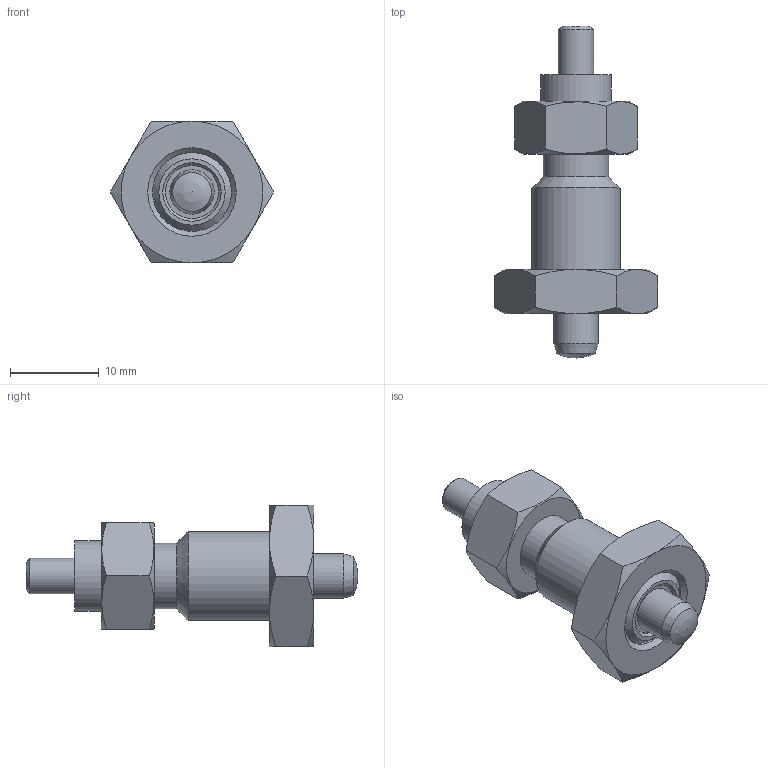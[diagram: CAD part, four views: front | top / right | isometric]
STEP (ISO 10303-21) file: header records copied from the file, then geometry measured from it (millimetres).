
FILE_DESCRIPTION( ( 'STEP AP203' ), '1' );
FILE_NAME( 'C:/Temp/Ganter_Step_05_03_2020/data/3_1/gn817/gn817_ni-rastbolzen/Stainless Steel-Indexing plunger GN 817-5-5-GK-NI (deactivated-0).stp', '2020-03-12T08:59:58', ( 'License CC BY-ND 4.0' ), ( 'CADENAS' ), ' ', 'PARTsolutions', ' ' );
FILE_SCHEMA( ( 'CONFIG_CONTROL_DESIGN' ) );
Length unit declared in the file: millimetre
Products named in the file (5): Stainless Steel-Indexing plunger GN 817-5-5-GK-NI (deactivated-0); _Stainless steel-Indexing plunger GN 817-5-5-GK-NI (deactivated-0)-d; _Stainless steel-Indexing plunger GN 817-5-5-B-NI-2; _Stainless Steel-Indexing plunger GN 817-5-5-G-NI-6; _Stainless steel-Indexing plunger GN 817-5-5-BK-NI (deactivated-0)-3
Assembly tree (4 placements, depth 2):
  Stainless Steel-Indexing plunger GN 817-5-5-GK-NI (deactivated-0)
    _Stainless steel-Indexing plunger GN 817-5-5-GK-NI (deactivated-0)-d
    _Stainless steel-Indexing plunger GN 817-5-5-B-NI-2
    _Stainless Steel-Indexing plunger GN 817-5-5-G-NI-6
    _Stainless steel-Indexing plunger GN 817-5-5-BK-NI (deactivated-0)-3
Bounding box: 18.48 x 37.5 x 16 mm (x, y, z)
Volume: 3022.5 mm3; surface area: 2876.3 mm2
Topology: 3 solids, 3 shells, 58 faces, 118 edges, 72 vertices
Faces by surface type: plane 23, cone 22, cylinder 10, torus 2, sphere 1
Full cylindrical faces by diameter (mm): 4 x3, 5 x1, 6 x2, 7.4 x1, 8 x1, 8.917 x1, 10 x1
Entity records: 1704 total; most frequent: CARTESIAN_POINT 467, DIRECTION 224, ORIENTED_EDGE 182, AXIS2_PLACEMENT_3D 106, EDGE_CURVE 91, EDGE_LOOP 90, FACE_OUTER_BOUND 70, VERTEX_POINT 68
